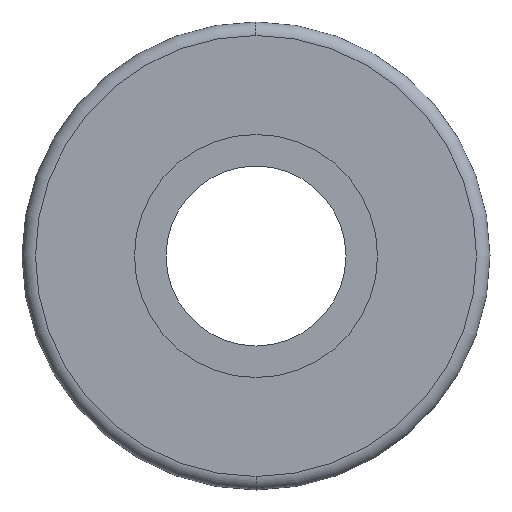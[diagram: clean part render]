
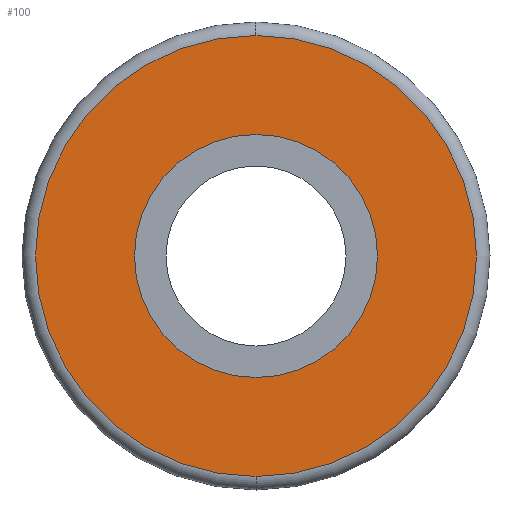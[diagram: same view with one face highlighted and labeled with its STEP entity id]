
A CAD part, left-side view. The second image highlights one B-rep face of the part: STEP entity #100.
In plain terms, the highlighted planar face has unit normal (-1, 0, 0).
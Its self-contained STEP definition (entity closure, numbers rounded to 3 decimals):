
#8 = EDGE_LOOP ( 'NONE', ( #253, #179 ) ) ;
#9 = DIRECTION ( 'NONE',  ( 0., 0., -1. ) ) ;
#14 = CARTESIAN_POINT ( 'NONE',  ( 5.565, 39.359, 0. ) ) ;
#17 = CARTESIAN_POINT ( 'NONE',  ( 5.565, 14.859, 0. ) ) ;
#22 = FACE_OUTER_BOUND ( 'NONE', #475, .T. ) ;
#25 = DIRECTION ( 'NONE',  ( 0., 0., -1. ) ) ;
#31 = EDGE_CURVE ( 'NONE', #247, #442, #41, .T. ) ;
#37 = VERTEX_POINT ( 'NONE', #167 ) ;
#39 = DIRECTION ( 'NONE',  ( 1., 0., 0. ) ) ;
#41 = CIRCLE ( 'NONE', #295, 24.5 ) ;
#42 = CARTESIAN_POINT ( 'NONE',  ( 5.565, 14.859, 0. ) ) ;
#54 = CIRCLE ( 'NONE', #416, 13.5 ) ;
#75 = CARTESIAN_POINT ( 'NONE',  ( 5.565, 14.859, -24.5 ) ) ;
#89 = DIRECTION ( 'NONE',  ( 1., 0., 0. ) ) ;
#94 = CARTESIAN_POINT ( 'NONE',  ( 5.565, 14.859, 0. ) ) ;
#100 = ADVANCED_FACE ( 'NONE', ( #341, #22 ), #456, .T. ) ;
#104 = EDGE_CURVE ( 'NONE', #289, #37, #110, .T. ) ;
#110 = CIRCLE ( 'NONE', #151, 13.5 ) ;
#151 = AXIS2_PLACEMENT_3D ( 'NONE', #42, #312, #224 ) ;
#153 = DIRECTION ( 'NONE',  ( 0., 0., 1. ) ) ;
#157 = EDGE_CURVE ( 'NONE', #442, #247, #413, .T. ) ;
#167 = CARTESIAN_POINT ( 'NONE',  ( 5.565, 14.859, 13.5 ) ) ;
#178 = AXIS2_PLACEMENT_3D ( 'NONE', #14, #232, #153 ) ;
#179 = ORIENTED_EDGE ( 'NONE', *, *, #198, .T. ) ;
#182 = ORIENTED_EDGE ( 'NONE', *, *, #31, .F. ) ;
#198 = EDGE_CURVE ( 'NONE', #37, #289, #54, .T. ) ;
#204 = CARTESIAN_POINT ( 'NONE',  ( 5.565, 14.859, 0. ) ) ;
#224 = DIRECTION ( 'NONE',  ( 0., 0., -1. ) ) ;
#232 = DIRECTION ( 'NONE',  ( -1., 0., 0. ) ) ;
#247 = VERTEX_POINT ( 'NONE', #332 ) ;
#253 = ORIENTED_EDGE ( 'NONE', *, *, #104, .T. ) ;
#286 = DIRECTION ( 'NONE',  ( 1., 0., 0. ) ) ;
#289 = VERTEX_POINT ( 'NONE', #409 ) ;
#295 = AXIS2_PLACEMENT_3D ( 'NONE', #94, #39, #9 ) ;
#312 = DIRECTION ( 'NONE',  ( 1., 0., 0. ) ) ;
#313 = AXIS2_PLACEMENT_3D ( 'NONE', #17, #89, #320 ) ;
#320 = DIRECTION ( 'NONE',  ( 0., 0., -1. ) ) ;
#332 = CARTESIAN_POINT ( 'NONE',  ( 5.565, 14.859, 24.5 ) ) ;
#341 = FACE_BOUND ( 'NONE', #8, .T. ) ;
#385 = ORIENTED_EDGE ( 'NONE', *, *, #157, .F. ) ;
#409 = CARTESIAN_POINT ( 'NONE',  ( 5.565, 14.859, -13.5 ) ) ;
#413 = CIRCLE ( 'NONE', #313, 24.5 ) ;
#416 = AXIS2_PLACEMENT_3D ( 'NONE', #204, #286, #25 ) ;
#442 = VERTEX_POINT ( 'NONE', #75 ) ;
#456 = PLANE ( 'NONE',  #178 ) ;
#475 = EDGE_LOOP ( 'NONE', ( #385, #182 ) ) ;
